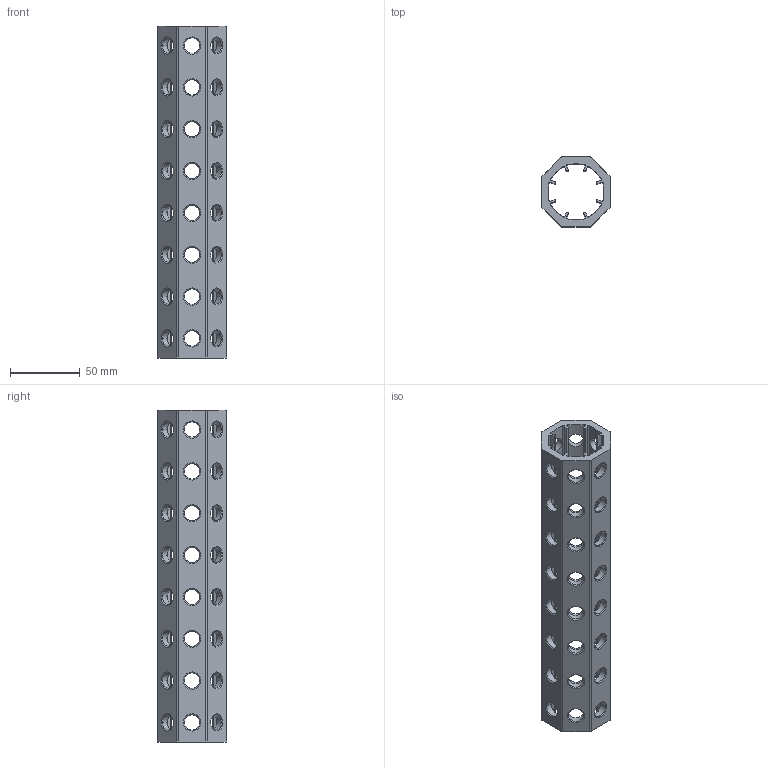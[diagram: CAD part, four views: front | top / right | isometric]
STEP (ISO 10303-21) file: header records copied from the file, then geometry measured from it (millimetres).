
FILE_DESCRIPTION(('CATIA V5 STEP Exchange'),'2;1');
FILE_NAME('U:\Room\唐宝山\EGT002\46-01-010237-01-EGT002-238.stp','2021-08-24T00:57:44+00:00',('none'),('none'),'CATIA Version 5 Release 21 GA (IN-10)','CATIA V5 STEP AP203','none');
FILE_SCHEMA(('CONFIG_CONTROL_DESIGN'));
Length unit declared in the file: millimetre
Products named in the file (1): 46-01-010237-01-EGT002-238
Bounding box: 50 x 50 x 238 mm (x, y, z)
Volume: 169343.9 mm3; surface area: 83229.8 mm2
Topology: 1 solids, 1 shells, 404 faces, 1126 edges, 708 vertices
Faces by surface type: cone 192, cylinder 186, plane 26
Entity records: 16169 total; most frequent: CARTESIAN_POINT 6198, ORIENTED_EDGE 2252, DIRECTION 1635, EDGE_CURVE 1126, AXIS2_PLACEMENT_3D 766, VERTEX_POINT 708, EDGE_LOOP 518, VECTOR 466
